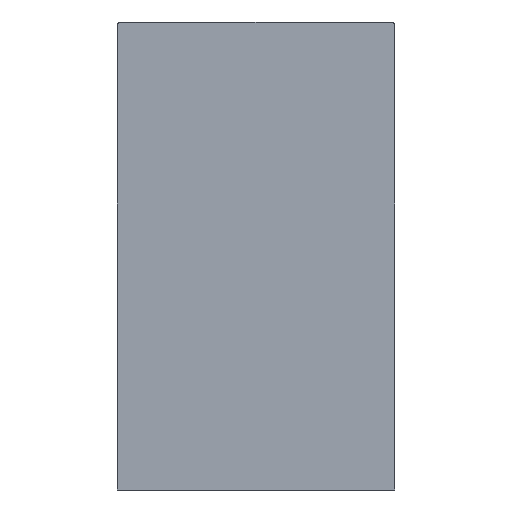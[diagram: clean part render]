
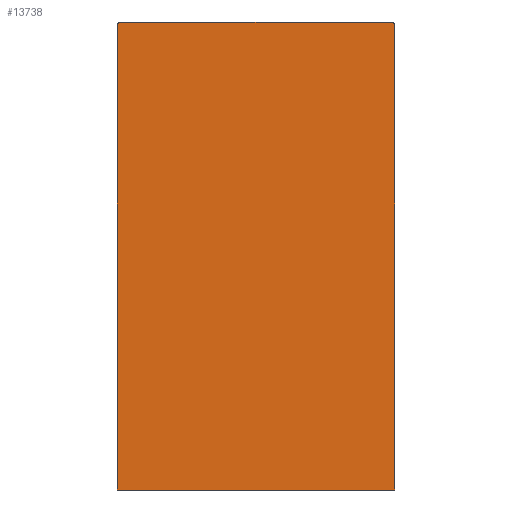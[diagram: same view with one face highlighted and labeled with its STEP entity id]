
A CAD part, front view. The second image highlights one B-rep face of the part: STEP entity #13738.
In plain terms, the highlighted planar face has unit normal (0, -1, 0).
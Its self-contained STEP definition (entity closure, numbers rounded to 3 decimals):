
#621 = VERTEX_POINT ( 'NONE', #5485 ) ;
#675 = CARTESIAN_POINT ( 'NONE',  ( 19.631, -20., 40.5 ) ) ;
#757 = VECTOR ( 'NONE', #15213, 1000. ) ;
#811 = CARTESIAN_POINT ( 'NONE',  ( -20., -20., 40. ) ) ;
#957 = PLANE ( 'NONE',  #2936 ) ;
#1810 = CARTESIAN_POINT ( 'NONE',  ( -18.5, -20., 22.51 ) ) ;
#1963 = ORIENTED_EDGE ( 'NONE', *, *, #11869, .F. ) ;
#2045 = LINE ( 'NONE', #1810, #6997 ) ;
#2169 = DIRECTION ( 'NONE',  ( 0., 0., 1. ) ) ;
#2211 = CARTESIAN_POINT ( 'NONE',  ( -20., -20., -27. ) ) ;
#2522 = VECTOR ( 'NONE', #11082, 1000. ) ;
#2649 = ORIENTED_EDGE ( 'NONE', *, *, #19991, .F. ) ;
#2829 = VERTEX_POINT ( 'NONE', #24733 ) ;
#2936 = AXIS2_PLACEMENT_3D ( 'NONE', #16980, #14701, #7064 ) ;
#2989 = EDGE_CURVE ( 'NONE', #3741, #621, #14368, .T. ) ;
#3305 = CARTESIAN_POINT ( 'NONE',  ( -20., -20., -27. ) ) ;
#3527 = CARTESIAN_POINT ( 'NONE',  ( -19.995, -20., 22.51 ) ) ;
#3741 = VERTEX_POINT ( 'NONE', #14686 ) ;
#3778 = ORIENTED_EDGE ( 'NONE', *, *, #13191, .F. ) ;
#4017 = EDGE_LOOP ( 'NONE', ( #24871, #23157, #20168, #18009, #18463, #21842, #9564, #9911, #19561, #2649, #1963, #3778 ) ) ;
#4436 = DIRECTION ( 'NONE',  ( 0., 0., 1. ) ) ;
#4700 = LINE ( 'NONE', #14494, #7502 ) ;
#4757 = CARTESIAN_POINT ( 'NONE',  ( -20., -20., 40.5 ) ) ;
#4896 = CARTESIAN_POINT ( 'NONE',  ( 19.761, -19.999, 40.446 ) ) ;
#5055 = EDGE_CURVE ( 'NONE', #621, #2829, #4700, .T. ) ;
#5213 = CARTESIAN_POINT ( 'NONE',  ( -19.995, -20., 2.51 ) ) ;
#5245 = LINE ( 'NONE', #13006, #2522 ) ;
#5359 = CARTESIAN_POINT ( 'NONE',  ( -19.5, -20., 40.5 ) ) ;
#5466 = CARTESIAN_POINT ( 'NONE',  ( -20., -20., 2.51 ) ) ;
#5485 = CARTESIAN_POINT ( 'NONE',  ( 20., -20., 22.51 ) ) ;
#5512 = DIRECTION ( 'NONE',  ( -1., 0., 0. ) ) ;
#5652 = LINE ( 'NONE', #21436, #757 ) ;
#6997 = VECTOR ( 'NONE', #5512, 1000. ) ;
#7064 = DIRECTION ( 'NONE',  ( 0., 0., -1. ) ) ;
#7317 = VECTOR ( 'NONE', #9579, 1000. ) ;
#7502 = VECTOR ( 'NONE', #4436, 1000. ) ;
#7724 = VECTOR ( 'NONE', #25018, 1000. ) ;
#8700 = VERTEX_POINT ( 'NONE', #21897 ) ;
#9133 = CARTESIAN_POINT ( 'NONE',  ( 20., -20., -27. ) ) ;
#9564 = ORIENTED_EDGE ( 'NONE', *, *, #5055, .T. ) ;
#9579 = DIRECTION ( 'NONE',  ( 0., 0., 1. ) ) ;
#9911 = ORIENTED_EDGE ( 'NONE', *, *, #20554, .F. ) ;
#9934 = CARTESIAN_POINT ( 'NONE',  ( 20., -20., 22.51 ) ) ;
#10455 = LINE ( 'NONE', #5466, #12613 ) ;
#10863 = FACE_OUTER_BOUND ( 'NONE', #4017, .T. ) ;
#11082 = DIRECTION ( 'NONE',  ( 0., 0., 1. ) ) ;
#11129 = VERTEX_POINT ( 'NONE', #9133 ) ;
#11139 = VERTEX_POINT ( 'NONE', #3527 ) ;
#11307 = CARTESIAN_POINT ( 'NONE',  ( -19.793, -20., 40.5 ) ) ;
#11869 = EDGE_CURVE ( 'NONE', #16726, #13880, #5652, .T. ) ;
#12409 = CARTESIAN_POINT ( 'NONE',  ( 20., -19.999, 40.131 ) ) ;
#12517 = DIRECTION ( 'NONE',  ( -1., 0., 0. ) ) ;
#12613 = VECTOR ( 'NONE', #15138, 1000. ) ;
#12725 = VERTEX_POINT ( 'NONE', #16763 ) ;
#13006 = CARTESIAN_POINT ( 'NONE',  ( 20., -20., 0. ) ) ;
#13191 = EDGE_CURVE ( 'NONE', #11139, #16726, #2045, .T. ) ;
#13622 = EDGE_CURVE ( 'NONE', #17846, #11129, #16370, .T. ) ;
#13656 = CARTESIAN_POINT ( 'NONE',  ( -20., -20., -12.245 ) ) ;
#13738 = ADVANCED_FACE ( 'NONE', ( #10863 ), #957, .T. ) ;
#13880 = VERTEX_POINT ( 'NONE', #25015 ) ;
#14080 = EDGE_CURVE ( 'NONE', #11129, #3741, #5245, .T. ) ;
#14368 = LINE ( 'NONE', #9934, #15889 ) ;
#14447 = VERTEX_POINT ( 'NONE', #5213 ) ;
#14494 = CARTESIAN_POINT ( 'NONE',  ( 20., -20., 0. ) ) ;
#14569 = CARTESIAN_POINT ( 'NONE',  ( 20., -20., 40. ) ) ;
#14686 = CARTESIAN_POINT ( 'NONE',  ( 20., -20., 2.51 ) ) ;
#14701 = DIRECTION ( 'NONE',  ( 0., -1., 0. ) ) ;
#15138 = DIRECTION ( 'NONE',  ( -1., 0., 0. ) ) ;
#15213 = DIRECTION ( 'NONE',  ( 0., 0., 1. ) ) ;
#15889 = VECTOR ( 'NONE', #2169, 1000. ) ;
#16277 = B_SPLINE_CURVE_WITH_KNOTS ( 'NONE', 3,
 ( #18528, #675, #4896, #20297, #12409, #14569 ),
 .UNSPECIFIED., .F., .F.,
 ( 4, 2, 4 ),
 ( 0., 0.5, 1. ),
 .UNSPECIFIED. ) ;
#16370 = LINE ( 'NONE', #2211, #23676 ) ;
#16726 = VERTEX_POINT ( 'NONE', #25136 ) ;
#16763 = CARTESIAN_POINT ( 'NONE',  ( -20., -20., 2.51 ) ) ;
#16980 = CARTESIAN_POINT ( 'NONE',  ( -20., -20., 0. ) ) ;
#17247 = CARTESIAN_POINT ( 'NONE',  ( -19.995, -20., 22.51 ) ) ;
#17261 = EDGE_CURVE ( 'NONE', #11139, #14447, #19286, .T. ) ;
#17325 = EDGE_CURVE ( 'NONE', #17846, #12725, #23471, .T. ) ;
#17846 = VERTEX_POINT ( 'NONE', #3305 ) ;
#17889 = DIRECTION ( 'NONE',  ( 1., 0., 0. ) ) ;
#18009 = ORIENTED_EDGE ( 'NONE', *, *, #13622, .T. ) ;
#18463 = ORIENTED_EDGE ( 'NONE', *, *, #14080, .T. ) ;
#18474 = EDGE_CURVE ( 'NONE', #8700, #19007, #20044, .T. ) ;
#18528 = CARTESIAN_POINT ( 'NONE',  ( 19.5, -20., 40.5 ) ) ;
#19007 = VERTEX_POINT ( 'NONE', #21264 ) ;
#19060 = VECTOR ( 'NONE', #12517, 1000. ) ;
#19286 = LINE ( 'NONE', #17247, #7724 ) ;
#19561 = ORIENTED_EDGE ( 'NONE', *, *, #18474, .T. ) ;
#19754 =( BOUNDED_CURVE ( )  B_SPLINE_CURVE ( 3, ( #811, #22801, #11307, #5359 ),
 .UNSPECIFIED., .F., .F. ) 
 B_SPLINE_CURVE_WITH_KNOTS ( ( 4, 4 ),
 ( 0., 1.571 ),
 .UNSPECIFIED. ) 
 CURVE ( )  GEOMETRIC_REPRESENTATION_ITEM ( )  RATIONAL_B_SPLINE_CURVE ( ( 1., 0.805, 0.805, 1. ) ) 
 REPRESENTATION_ITEM ( '' )  );
#19991 = EDGE_CURVE ( 'NONE', #13880, #19007, #19754, .T. ) ;
#20044 = LINE ( 'NONE', #4757, #19060 ) ;
#20168 = ORIENTED_EDGE ( 'NONE', *, *, #17325, .F. ) ;
#20297 = CARTESIAN_POINT ( 'NONE',  ( 19.946, -19.999, 40.261 ) ) ;
#20554 = EDGE_CURVE ( 'NONE', #8700, #2829, #16277, .T. ) ;
#21264 = CARTESIAN_POINT ( 'NONE',  ( -19.5, -20., 40.5 ) ) ;
#21436 = CARTESIAN_POINT ( 'NONE',  ( -20., -20., -12.245 ) ) ;
#21842 = ORIENTED_EDGE ( 'NONE', *, *, #2989, .T. ) ;
#21897 = CARTESIAN_POINT ( 'NONE',  ( 19.5, -20., 40.5 ) ) ;
#22801 = CARTESIAN_POINT ( 'NONE',  ( -20., -20., 40.293 ) ) ;
#23157 = ORIENTED_EDGE ( 'NONE', *, *, #24977, .T. ) ;
#23471 = LINE ( 'NONE', #13656, #7317 ) ;
#23676 = VECTOR ( 'NONE', #17889, 1000. ) ;
#24733 = CARTESIAN_POINT ( 'NONE',  ( 20., -20., 40. ) ) ;
#24871 = ORIENTED_EDGE ( 'NONE', *, *, #17261, .T. ) ;
#24977 = EDGE_CURVE ( 'NONE', #14447, #12725, #10455, .T. ) ;
#25015 = CARTESIAN_POINT ( 'NONE',  ( -20., -20., 40. ) ) ;
#25018 = DIRECTION ( 'NONE',  ( 0., 0., -1. ) ) ;
#25136 = CARTESIAN_POINT ( 'NONE',  ( -20., -20., 22.51 ) ) ;
